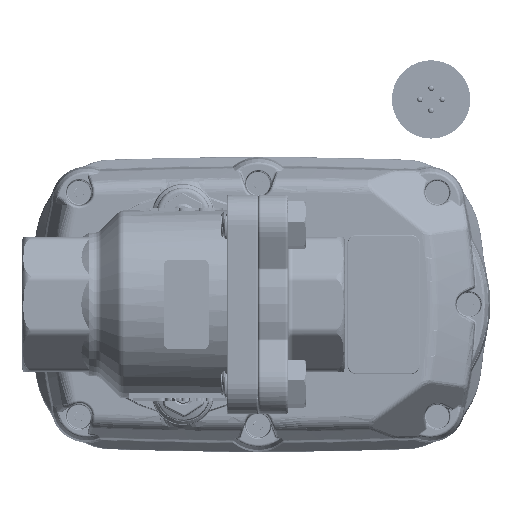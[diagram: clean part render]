
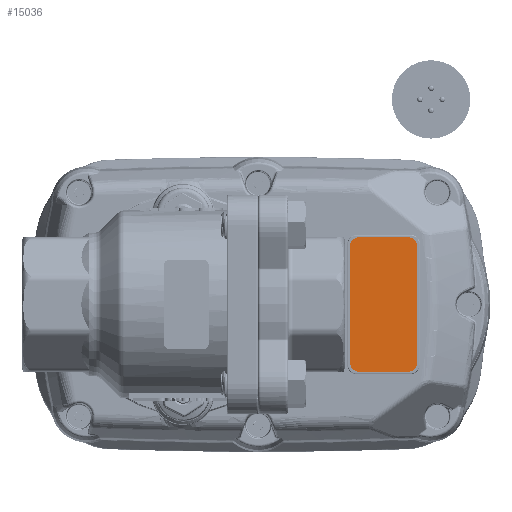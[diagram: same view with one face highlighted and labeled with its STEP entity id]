
A CAD part, front view. The second image highlights one B-rep face of the part: STEP entity #15036.
In plain terms, the highlighted planar face has unit normal (0, -1, 0).
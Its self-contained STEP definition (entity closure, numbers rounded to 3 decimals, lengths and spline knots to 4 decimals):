
#7912 = CARTESIAN_POINT ( 'NONE',  ( 2.513, 2.755, -0.75 ) ) ;
#15036 = ADVANCED_FACE ( 'NONE', ( #252001 ), #23606, .F. ) ;
#23606 = PLANE ( 'NONE',  #363262 ) ;
#27677 = CIRCLE ( 'NONE', #380511, 0.1 ) ;
#42720 = VERTEX_POINT ( 'NONE', #273318 ) ;
#50915 = CARTESIAN_POINT ( 'NONE',  ( 2.613, 2.755, 0.65 ) ) ;
#69522 = AXIS2_PLACEMENT_3D ( 'NONE', #246793, #86203, #128836 ) ;
#77753 = ORIENTED_EDGE ( 'NONE', *, *, #454481, .T. ) ;
#82807 = AXIS2_PLACEMENT_3D ( 'NONE', #180857, #333909, #173485 ) ;
#86203 = DIRECTION ( 'NONE',  ( 0., -1., 0. ) ) ;
#86485 = EDGE_CURVE ( 'NONE', #470579, #202871, #359980, .T. ) ;
#87533 = CARTESIAN_POINT ( 'NONE',  ( 1.963, 2.755, -0.75 ) ) ;
#93383 = DIRECTION ( 'NONE',  ( -1., 0., 0. ) ) ;
#98545 = EDGE_CURVE ( 'NONE', #454876, #245949, #323607, .T. ) ;
#101319 = CARTESIAN_POINT ( 'NONE',  ( 2.238, 2.755, 0. ) ) ;
#103868 = CARTESIAN_POINT ( 'NONE',  ( 2.613, 2.755, 0.75 ) ) ;
#128836 = DIRECTION ( 'NONE',  ( 0., 0., -1. ) ) ;
#136018 = ORIENTED_EDGE ( 'NONE', *, *, #280695, .T. ) ;
#136062 = ORIENTED_EDGE ( 'NONE', *, *, #211240, .F. ) ;
#138017 = VECTOR ( 'NONE', #254258, 39.3701 ) ;
#147727 = VECTOR ( 'NONE', #337219, 39.3701 ) ;
#154972 = CARTESIAN_POINT ( 'NONE',  ( 2.613, 2.755, -0.65 ) ) ;
#168497 = DIRECTION ( 'NONE',  ( 0., 0., 1. ) ) ;
#173485 = DIRECTION ( 'NONE',  ( 0., 0., -1. ) ) ;
#173680 = LINE ( 'NONE', #394650, #333635 ) ;
#175844 = ORIENTED_EDGE ( 'NONE', *, *, #98545, .T. ) ;
#180857 = CARTESIAN_POINT ( 'NONE',  ( 2.513, 2.755, -0.65 ) ) ;
#181035 = EDGE_CURVE ( 'NONE', #399128, #435929, #439510, .T. ) ;
#183901 = LINE ( 'NONE', #289449, #138017 ) ;
#199944 = CARTESIAN_POINT ( 'NONE',  ( 1.963, 2.755, 0.65 ) ) ;
#202413 = DIRECTION ( 'NONE',  ( 0., -1., 0. ) ) ;
#202871 = VERTEX_POINT ( 'NONE', #252294 ) ;
#211240 = EDGE_CURVE ( 'NONE', #42720, #202871, #183901, .T. ) ;
#219122 = DIRECTION ( 'NONE',  ( 0., 0., -1. ) ) ;
#219219 = DIRECTION ( 'NONE',  ( 0., 1., 0. ) ) ;
#221781 = LINE ( 'NONE', #103868, #147727 ) ;
#245653 = CARTESIAN_POINT ( 'NONE',  ( 1.863, 2.755, -0.65 ) ) ;
#245949 = VERTEX_POINT ( 'NONE', #154972 ) ;
#246793 = CARTESIAN_POINT ( 'NONE',  ( 1.963, 2.755, -0.65 ) ) ;
#252001 = FACE_OUTER_BOUND ( 'NONE', #309583, .T. ) ;
#252294 = CARTESIAN_POINT ( 'NONE',  ( 2.513, 2.755, 0.75 ) ) ;
#254258 = DIRECTION ( 'NONE',  ( 1., 0., 0. ) ) ;
#266962 = ORIENTED_EDGE ( 'NONE', *, *, #181035, .F. ) ;
#271465 = AXIS2_PLACEMENT_3D ( 'NONE', #344480, #299398, #219122 ) ;
#272644 = ORIENTED_EDGE ( 'NONE', *, *, #292626, .F. ) ;
#273318 = CARTESIAN_POINT ( 'NONE',  ( 1.963, 2.755, 0.75 ) ) ;
#280695 = EDGE_CURVE ( 'NONE', #42720, #435929, #27677, .T. ) ;
#289449 = CARTESIAN_POINT ( 'NONE',  ( 1.863, 2.755, 0.75 ) ) ;
#292626 = EDGE_CURVE ( 'NONE', #470579, #245949, #221781, .T. ) ;
#299398 = DIRECTION ( 'NONE',  ( 0., -1., 0. ) ) ;
#309583 = EDGE_LOOP ( 'NONE', ( #272644, #383832, #136062, #136018, #266962, #77753, #390114, #175844 ) ) ;
#317811 = DIRECTION ( 'NONE',  ( 0., 0., -1. ) ) ;
#319066 = CARTESIAN_POINT ( 'NONE',  ( 1.863, 2.755, 0.75 ) ) ;
#323607 = CIRCLE ( 'NONE', #82807, 0.1 ) ;
#333635 = VECTOR ( 'NONE', #93383, 39.3701 ) ;
#333909 = DIRECTION ( 'NONE',  ( 0., -1., 0. ) ) ;
#337219 = DIRECTION ( 'NONE',  ( 0., 0., -1. ) ) ;
#344480 = CARTESIAN_POINT ( 'NONE',  ( 2.513, 2.755, 0.65 ) ) ;
#359980 = CIRCLE ( 'NONE', #271465, 0.1 ) ;
#363262 = AXIS2_PLACEMENT_3D ( 'NONE', #101319, #219219, #410054 ) ;
#369806 = EDGE_CURVE ( 'NONE', #454876, #486028, #173680, .T. ) ;
#380511 = AXIS2_PLACEMENT_3D ( 'NONE', #199944, #202413, #317811 ) ;
#383832 = ORIENTED_EDGE ( 'NONE', *, *, #86485, .T. ) ;
#385041 = CARTESIAN_POINT ( 'NONE',  ( 1.863, 2.755, 0.65 ) ) ;
#390114 = ORIENTED_EDGE ( 'NONE', *, *, #369806, .F. ) ;
#394650 = CARTESIAN_POINT ( 'NONE',  ( 1.863, 2.755, -0.75 ) ) ;
#399128 = VERTEX_POINT ( 'NONE', #245653 ) ;
#410054 = DIRECTION ( 'NONE',  ( 0., 0., -1. ) ) ;
#411693 = VECTOR ( 'NONE', #168497, 39.3701 ) ;
#435929 = VERTEX_POINT ( 'NONE', #385041 ) ;
#438658 = CIRCLE ( 'NONE', #69522, 0.1 ) ;
#439510 = LINE ( 'NONE', #319066, #411693 ) ;
#454481 = EDGE_CURVE ( 'NONE', #399128, #486028, #438658, .T. ) ;
#454876 = VERTEX_POINT ( 'NONE', #7912 ) ;
#470579 = VERTEX_POINT ( 'NONE', #50915 ) ;
#486028 = VERTEX_POINT ( 'NONE', #87533 ) ;
